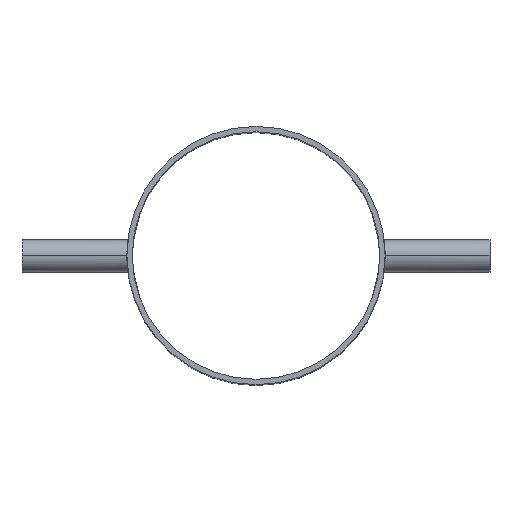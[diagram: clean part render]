
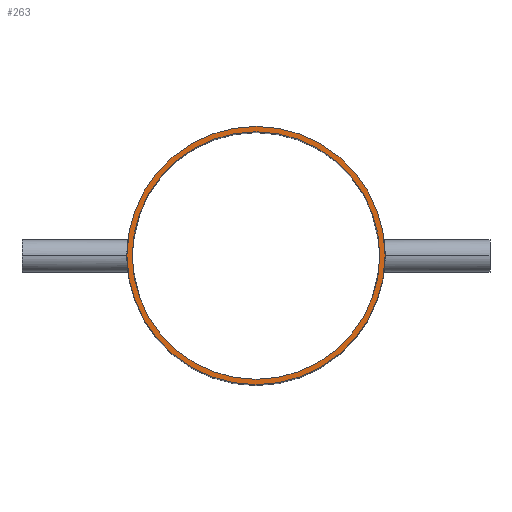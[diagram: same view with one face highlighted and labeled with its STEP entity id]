
A CAD part, top view. The second image highlights one B-rep face of the part: STEP entity #263.
In plain terms, the highlighted planar face has unit normal (0, 0, 1).
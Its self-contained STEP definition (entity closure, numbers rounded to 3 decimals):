
#27 = EDGE_LOOP ( 'NONE', ( #811, #388 ) ) ;
#44 = DIRECTION ( 'NONE',  ( 1., 0., 0. ) ) ;
#56 = AXIS2_PLACEMENT_3D ( 'NONE', #107, #680, #115 ) ;
#57 = DIRECTION ( 'NONE',  ( 0., 0., -1. ) ) ;
#60 = EDGE_CURVE ( 'NONE', #170, #499, #706, .T. ) ;
#78 = DIRECTION ( 'NONE',  ( 0., 0., -1. ) ) ;
#84 = CIRCLE ( 'NONE', #101, 48.692 ) ;
#99 = CARTESIAN_POINT ( 'NONE',  ( 0., 0., 104.775 ) ) ;
#101 = AXIS2_PLACEMENT_3D ( 'NONE', #99, #78, #44 ) ;
#107 = CARTESIAN_POINT ( 'NONE',  ( 0., 0., 104.775 ) ) ;
#115 = DIRECTION ( 'NONE',  ( 1., 0., 0. ) ) ;
#132 = CIRCLE ( 'NONE', #56, 50.8 ) ;
#138 = EDGE_LOOP ( 'NONE', ( #437, #634 ) ) ;
#160 = CARTESIAN_POINT ( 'NONE',  ( 0., 0., 104.775 ) ) ;
#162 = EDGE_CURVE ( 'NONE', #412, #578, #397, .T. ) ;
#170 = VERTEX_POINT ( 'NONE', #808 ) ;
#172 = PLANE ( 'NONE',  #355 ) ;
#210 = AXIS2_PLACEMENT_3D ( 'NONE', #424, #57, #483 ) ;
#220 = DIRECTION ( 'NONE',  ( 1., 0., 0. ) ) ;
#232 = AXIS2_PLACEMENT_3D ( 'NONE', #287, #604, #220 ) ;
#236 = FACE_OUTER_BOUND ( 'NONE', #138, .T. ) ;
#259 = CARTESIAN_POINT ( 'NONE',  ( 48.692, 0., 104.775 ) ) ;
#263 = ADVANCED_FACE ( 'NONE', ( #236, #444 ), #172, .T. ) ;
#287 = CARTESIAN_POINT ( 'NONE',  ( 0., 0., 104.775 ) ) ;
#289 = EDGE_CURVE ( 'NONE', #578, #412, #132, .T. ) ;
#355 = AXIS2_PLACEMENT_3D ( 'NONE', #160, #807, #759 ) ;
#388 = ORIENTED_EDGE ( 'NONE', *, *, #60, .T. ) ;
#397 = CIRCLE ( 'NONE', #210, 50.8 ) ;
#412 = VERTEX_POINT ( 'NONE', #548 ) ;
#424 = CARTESIAN_POINT ( 'NONE',  ( 0., 0., 104.775 ) ) ;
#437 = ORIENTED_EDGE ( 'NONE', *, *, #289, .F. ) ;
#444 = FACE_BOUND ( 'NONE', #27, .T. ) ;
#483 = DIRECTION ( 'NONE',  ( 1., 0., 0. ) ) ;
#499 = VERTEX_POINT ( 'NONE', #259 ) ;
#548 = CARTESIAN_POINT ( 'NONE',  ( -50.8, 0., 104.775 ) ) ;
#550 = EDGE_CURVE ( 'NONE', #499, #170, #84, .T. ) ;
#578 = VERTEX_POINT ( 'NONE', #771 ) ;
#604 = DIRECTION ( 'NONE',  ( 0., 0., -1. ) ) ;
#634 = ORIENTED_EDGE ( 'NONE', *, *, #162, .F. ) ;
#680 = DIRECTION ( 'NONE',  ( 0., 0., -1. ) ) ;
#706 = CIRCLE ( 'NONE', #232, 48.692 ) ;
#759 = DIRECTION ( 'NONE',  ( 1., 0., 0. ) ) ;
#771 = CARTESIAN_POINT ( 'NONE',  ( 50.8, 0., 104.775 ) ) ;
#807 = DIRECTION ( 'NONE',  ( 0., 0., 1. ) ) ;
#808 = CARTESIAN_POINT ( 'NONE',  ( -48.692, 0., 104.775 ) ) ;
#811 = ORIENTED_EDGE ( 'NONE', *, *, #550, .T. ) ;
